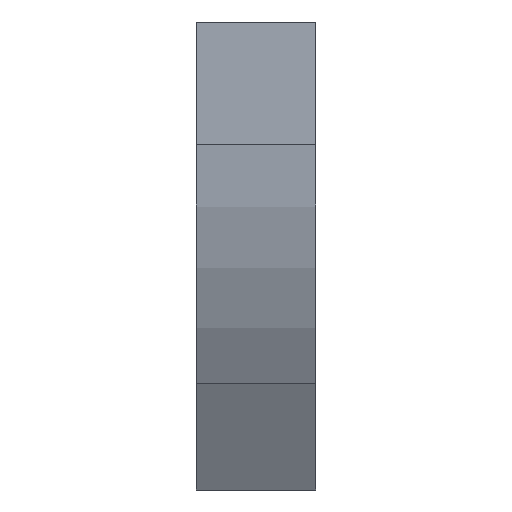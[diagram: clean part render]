
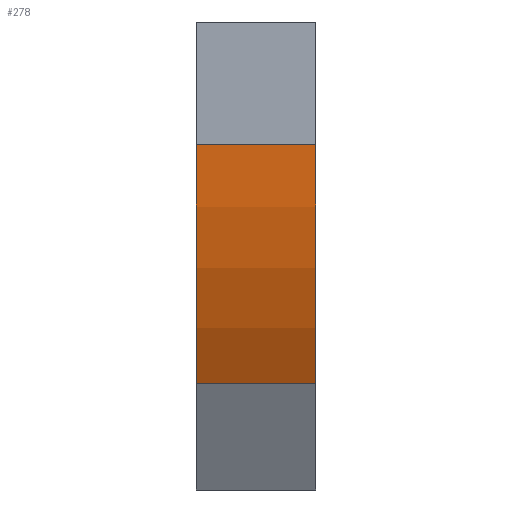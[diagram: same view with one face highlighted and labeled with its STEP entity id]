
A CAD part, left-side view. The second image highlights one B-rep face of the part: STEP entity #278.
In plain terms, the highlighted cylindrical face has radius 300 mm (diameter 600 mm), a partial arc.
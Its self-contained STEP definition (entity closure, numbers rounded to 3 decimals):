
#80 = CARTESIAN_POINT ( 'NONE',  ( 40.192, 0., -226.795 ) ) ;
#105 = DIRECTION ( 'NONE',  ( 0., -1., 0. ) ) ;
#126 = FACE_OUTER_BOUND ( 'NONE', #768, .T. ) ;
#186 = EDGE_CURVE ( 'NONE', #1256, #1349, #943, .T. ) ;
#218 = ORIENTED_EDGE ( 'NONE', *, *, #928, .T. ) ;
#244 = CARTESIAN_POINT ( 'NONE',  ( 0., 0., -76.795 ) ) ;
#249 = CIRCLE ( 'NONE', #306, 300. ) ;
#266 = VECTOR ( 'NONE', #960, 1000. ) ;
#278 = ADVANCED_FACE ( 'NONE', ( #126 ), #872, .T. ) ;
#306 = AXIS2_PLACEMENT_3D ( 'NONE', #893, #1416, #884 ) ;
#313 = CARTESIAN_POINT ( 'NONE',  ( 40.192, 0., -226.795 ) ) ;
#368 = DIRECTION ( 'NONE',  ( 0., 0., -1. ) ) ;
#388 = ORIENTED_EDGE ( 'NONE', *, *, #885, .F. ) ;
#429 = AXIS2_PLACEMENT_3D ( 'NONE', #1221, #692, #590 ) ;
#443 = CARTESIAN_POINT ( 'NONE',  ( 0., 0., -76.795 ) ) ;
#588 = DIRECTION ( 'NONE',  ( 0., -1., 0. ) ) ;
#590 = DIRECTION ( 'NONE',  ( -1., 0., 0. ) ) ;
#632 = CARTESIAN_POINT ( 'NONE',  ( 300., 0., -76.795 ) ) ;
#692 = DIRECTION ( 'NONE',  ( 0., -1., 0. ) ) ;
#768 = EDGE_LOOP ( 'NONE', ( #807, #388, #1493, #218 ) ) ;
#807 = ORIENTED_EDGE ( 'NONE', *, *, #1452, .F. ) ;
#859 = VERTEX_POINT ( 'NONE', #313 ) ;
#872 = CYLINDRICAL_SURFACE ( 'NONE', #1214, 300. ) ;
#884 = DIRECTION ( 'NONE',  ( -1., 0., 0. ) ) ;
#885 = EDGE_CURVE ( 'NONE', #1256, #962, #1598, .T. ) ;
#893 = CARTESIAN_POINT ( 'NONE',  ( 300., 0., -76.795 ) ) ;
#928 = EDGE_CURVE ( 'NONE', #1349, #859, #1491, .T. ) ;
#943 = CIRCLE ( 'NONE', #429, 300. ) ;
#960 = DIRECTION ( 'NONE',  ( 0., -1., 0. ) ) ;
#962 = VERTEX_POINT ( 'NONE', #244 ) ;
#1135 = VECTOR ( 'NONE', #588, 1000. ) ;
#1214 = AXIS2_PLACEMENT_3D ( 'NONE', #632, #105, #368 ) ;
#1221 = CARTESIAN_POINT ( 'NONE',  ( 300., 75., -76.795 ) ) ;
#1256 = VERTEX_POINT ( 'NONE', #1587 ) ;
#1349 = VERTEX_POINT ( 'NONE', #1635 ) ;
#1416 = DIRECTION ( 'NONE',  ( 0., -1., 0. ) ) ;
#1452 = EDGE_CURVE ( 'NONE', #962, #859, #249, .T. ) ;
#1491 = LINE ( 'NONE', #80, #1135 ) ;
#1493 = ORIENTED_EDGE ( 'NONE', *, *, #186, .T. ) ;
#1587 = CARTESIAN_POINT ( 'NONE',  ( 0., 75., -76.795 ) ) ;
#1598 = LINE ( 'NONE', #443, #266 ) ;
#1635 = CARTESIAN_POINT ( 'NONE',  ( 40.192, 75., -226.795 ) ) ;
